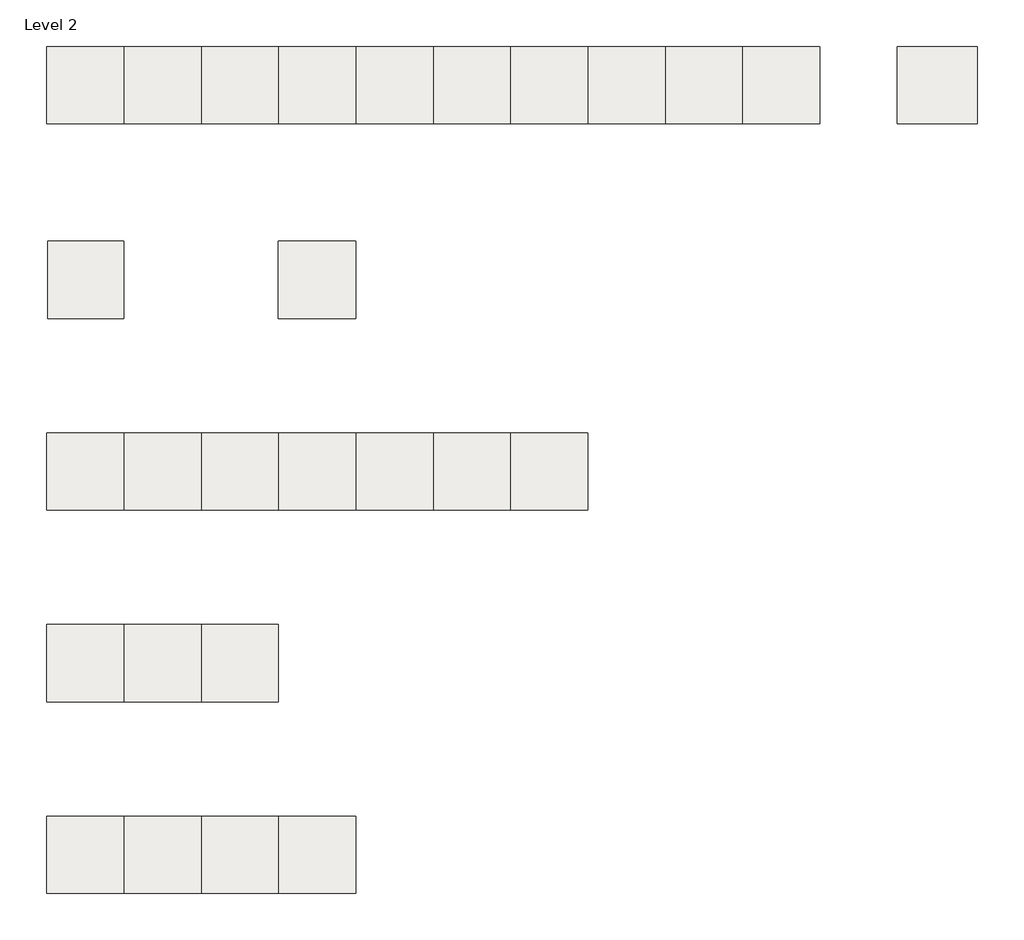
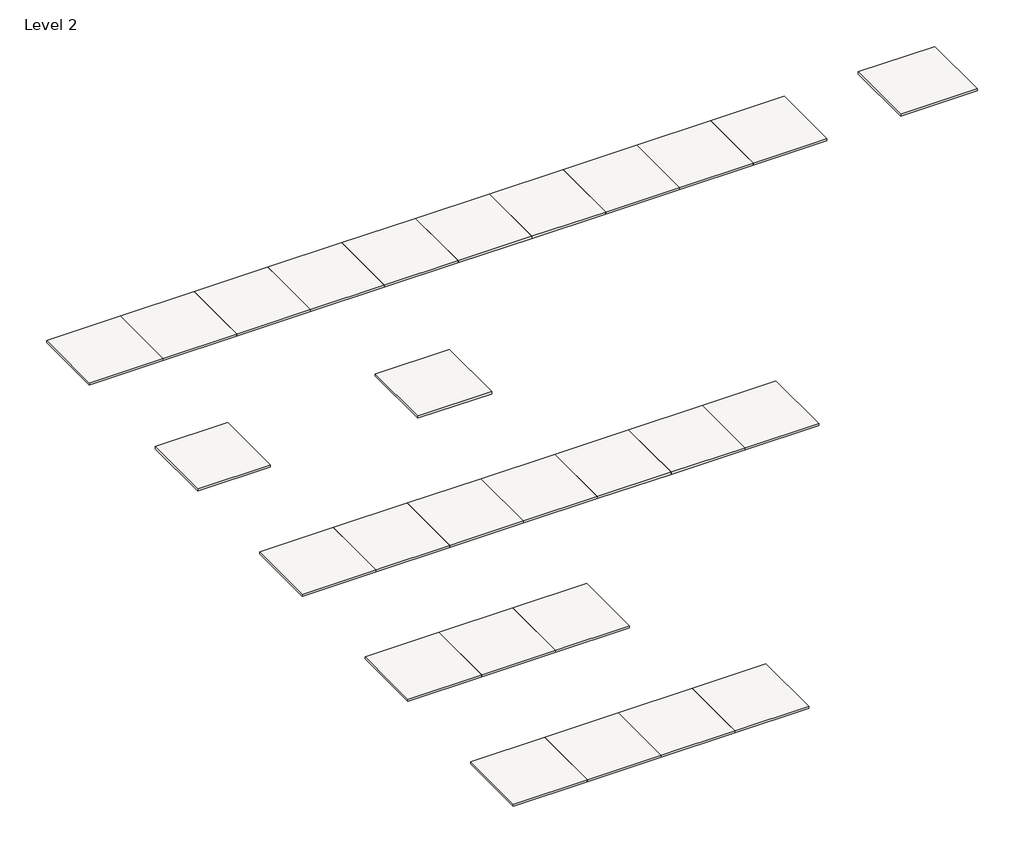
# One storey: 27 slabs.
"""IFC4 building model written with IfcOpenShell, lengths in millimetres."""

from ifc_helpers import new_model, si_unit, frame, origin, place, context, project, spatial, polyline, outline, extrude, element, save

model = new_model("IFC4")

# Units and contexts
model_context = context("Model", 3, world=origin())
ifc_project = project(units=[si_unit("LENGTHUNIT", "METRE", prefix="MILLI")], contexts=[model_context])

# Site, building, storey
site = spatial("IfcSite", under=ifc_project)
building = spatial("IfcBuilding", under=site)
storey = spatial("IfcBuildingStorey", under=building, Name="Level 2", Elevation=3000.0)

# Slabs
placement = place(None, origin())
element("IfcSlab", 1, ObjectType="Generic 150mm", at=placement, inside=storey, context=model_context, shape_type="SweptSolid", body=[
    extrude(outline(polyline([(5112.2416021, -3973.3850129), (5112.2416021, -8973.3850129), (195.8983303, -8973.3850129), (195.8983303, -3973.3850129), (5112.2416021, -3973.3850129)])), frame((0.0, 0.0, 2850.0), z_axis=(0.0, 0.0, 1.0), x_axis=(1.0, 0.0, 0.0)), (0.0, 0.0, 1.0), 150.0),
])
element("IfcSlab", 2, ObjectType="Generic 150mm", at=placement, inside=storey, context=model_context, shape_type="SweptSolid", body=[
    extrude(outline(polyline([(20112.2416021, -3973.3850129), (20112.2416021, -8973.3850129), (15112.2416021, -8973.3850129), (15112.2416021, -3973.3850129), (20112.2416021, -3973.3850129)])), frame((0.0, 0.0, 2850.0), z_axis=(0.0, 0.0, 1.0), x_axis=(1.0, 0.0, 0.0)), (0.0, 0.0, 1.0), 150.0),
])
element("IfcSlab", 3, ObjectType="Generic 150mm", at=placement, inside=storey, context=model_context, shape_type="SweptSolid", body=[
    extrude(outline(polyline([(5112.2416021, -16373.3850129), (5112.2416021, -21373.3850129), (112.2416021, -21373.3850129), (112.2416021, -16373.3850129), (5112.2416021, -16373.3850129)])), frame((0.0, 0.0, 2850.0), z_axis=(0.0, 0.0, 1.0), x_axis=(1.0, 0.0, 0.0)), (0.0, 0.0, 1.0), 150.0),
])
element("IfcSlab", 4, ObjectType="Generic 150mm", at=placement, inside=storey, context=model_context, shape_type="SweptSolid", body=[
    extrude(outline(polyline([(10112.2416021, -16373.3850129), (10112.2416021, -21373.3850129), (5112.2416021, -21373.3850129), (5112.2416021, -16373.3850129), (10112.2416021, -16373.3850129)])), frame((0.0, 0.0, 2850.0), z_axis=(0.0, 0.0, 1.0), x_axis=(1.0, 0.0, 0.0)), (0.0, 0.0, 1.0), 150.0),
])
element("IfcSlab", 5, ObjectType="Generic 150mm", at=placement, inside=storey, context=model_context, shape_type="SweptSolid", body=[
    extrude(outline(polyline([(15112.2416021, -16373.3850129), (15112.2416021, -21373.3850129), (10112.2416021, -21373.3850129), (10112.2416021, -16373.3850129), (15112.2416021, -16373.3850129)])), frame((0.0, 0.0, 2850.0), z_axis=(0.0, 0.0, 1.0), x_axis=(1.0, 0.0, 0.0)), (0.0, 0.0, 1.0), 150.0),
])
element("IfcSlab", 6, ObjectType="Generic 150mm", at=placement, inside=storey, context=model_context, shape_type="SweptSolid", body=[
    extrude(outline(polyline([(20112.2416021, -16373.3850129), (20112.2416021, -21373.3850129), (15112.2416021, -21373.3850129), (15112.2416021, -16373.3850129), (20112.2416021, -16373.3850129)])), frame((0.0, 0.0, 2850.0), z_axis=(0.0, 0.0, 1.0), x_axis=(1.0, 0.0, 0.0)), (0.0, 0.0, 1.0), 150.0),
])
element("IfcSlab", 7, ObjectType="Generic 150mm", at=placement, inside=storey, context=model_context, shape_type="SweptSolid", body=[
    extrude(outline(polyline([(25112.2416021, -16373.3850129), (25112.2416021, -21373.3850129), (20112.2416021, -21373.3850129), (20112.2416021, -16373.3850129), (25112.2416021, -16373.3850129)])), frame((0.0, 0.0, 2850.0), z_axis=(0.0, 0.0, 1.0), x_axis=(1.0, 0.0, 0.0)), (0.0, 0.0, 1.0), 150.0),
])
element("IfcSlab", 8, ObjectType="Generic 150mm", at=placement, inside=storey, context=model_context, shape_type="SweptSolid", body=[
    extrude(outline(polyline([(30112.2416021, -16373.3850129), (30112.2416021, -21373.3850129), (25112.2416021, -21373.3850129), (25112.2416021, -16373.3850129), (30112.2416021, -16373.3850129)])), frame((0.0, 0.0, 2850.0), z_axis=(0.0, 0.0, 1.0), x_axis=(1.0, 0.0, 0.0)), (0.0, 0.0, 1.0), 150.0),
])
element("IfcSlab", 9, ObjectType="Generic 150mm", at=placement, inside=storey, context=model_context, shape_type="SweptSolid", body=[
    extrude(outline(polyline([(35112.2416021, -16373.3850129), (35112.2416021, -21373.3850129), (30112.2416021, -21373.3850129), (30112.2416021, -16373.3850129), (35112.2416021, -16373.3850129)])), frame((0.0, 0.0, 2850.0), z_axis=(0.0, 0.0, 1.0), x_axis=(1.0, 0.0, 0.0)), (0.0, 0.0, 1.0), 150.0),
])
element("IfcSlab", 10, ObjectType="Generic 150mm", at=placement, inside=storey, context=model_context, shape_type="SweptSolid", body=[
    extrude(outline(polyline([(5112.2416021, 8626.6149871), (5112.2416021, 3626.6149871), (112.2416021, 3626.6149871), (112.2416021, 8626.6149871), (5112.2416021, 8626.6149871)])), frame((0.0, 0.0, 2850.0), z_axis=(0.0, 0.0, 1.0), x_axis=(1.0, 0.0, 0.0)), (0.0, 0.0, 1.0), 150.0),
])
element("IfcSlab", 11, ObjectType="Generic 150mm", at=placement, inside=storey, context=model_context, shape_type="SweptSolid", body=[
    extrude(outline(polyline([(10112.2416021, 8626.6149871), (10112.2416021, 3626.6149871), (5112.2416021, 3626.6149871), (5112.2416021, 8626.6149871), (10112.2416021, 8626.6149871)])), frame((0.0, 0.0, 2850.0), z_axis=(0.0, 0.0, 1.0), x_axis=(1.0, 0.0, 0.0)), (0.0, 0.0, 1.0), 150.0),
])
element("IfcSlab", 12, ObjectType="Generic 150mm", at=placement, inside=storey, context=model_context, shape_type="SweptSolid", body=[
    extrude(outline(polyline([(15112.2416021, 8626.6149871), (15112.2416021, 3626.6149871), (10112.2416021, 3626.6149871), (10112.2416021, 8626.6149871), (15112.2416021, 8626.6149871)])), frame((0.0, 0.0, 2850.0), z_axis=(0.0, 0.0, 1.0), x_axis=(1.0, 0.0, 0.0)), (0.0, 0.0, 1.0), 150.0),
])
element("IfcSlab", 13, ObjectType="Generic 150mm", at=placement, inside=storey, context=model_context, shape_type="SweptSolid", body=[
    extrude(outline(polyline([(20112.2416021, 8626.6149871), (20112.2416021, 3626.6149871), (15112.2416021, 3626.6149871), (15112.2416021, 8626.6149871), (20112.2416021, 8626.6149871)])), frame((0.0, 0.0, 2850.0), z_axis=(0.0, 0.0, 1.0), x_axis=(1.0, 0.0, 0.0)), (0.0, 0.0, 1.0), 150.0),
])
element("IfcSlab", 14, ObjectType="Generic 150mm", at=placement, inside=storey, context=model_context, shape_type="SweptSolid", body=[
    extrude(outline(polyline([(25112.2416021, 8626.6149871), (25112.2416021, 3626.6149871), (20112.2416021, 3626.6149871), (20112.2416021, 8626.6149871), (25112.2416021, 8626.6149871)])), frame((0.0, 0.0, 2850.0), z_axis=(0.0, 0.0, 1.0), x_axis=(1.0, 0.0, 0.0)), (0.0, 0.0, 1.0), 150.0),
])
element("IfcSlab", 15, ObjectType="Generic 150mm", at=placement, inside=storey, context=model_context, shape_type="SweptSolid", body=[
    extrude(outline(polyline([(30112.2416021, 8626.6149871), (30112.2416021, 3626.6149871), (25112.2416021, 3626.6149871), (25112.2416021, 8626.6149871), (30112.2416021, 8626.6149871)])), frame((0.0, 0.0, 2850.0), z_axis=(0.0, 0.0, 1.0), x_axis=(1.0, 0.0, 0.0)), (0.0, 0.0, 1.0), 150.0),
])
element("IfcSlab", 16, ObjectType="Generic 150mm", at=placement, inside=storey, context=model_context, shape_type="SweptSolid", body=[
    extrude(outline(polyline([(35112.2416021, 8626.6149871), (35112.2416021, 3626.6149871), (30112.2416021, 3626.6149871), (30112.2416021, 8626.6149871), (35112.2416021, 8626.6149871)])), frame((0.0, 0.0, 2850.0), z_axis=(0.0, 0.0, 1.0), x_axis=(1.0, 0.0, 0.0)), (0.0, 0.0, 1.0), 150.0),
])
element("IfcSlab", 17, ObjectType="Generic 150mm", at=placement, inside=storey, context=model_context, shape_type="SweptSolid", body=[
    extrude(outline(polyline([(40112.2416021, 8626.6149871), (40112.2416021, 3626.6149871), (35112.2416021, 3626.6149871), (35112.2416021, 8626.6149871), (40112.2416021, 8626.6149871)])), frame((0.0, 0.0, 2850.0), z_axis=(0.0, 0.0, 1.0), x_axis=(1.0, 0.0, 0.0)), (0.0, 0.0, 1.0), 150.0),
])
element("IfcSlab", 18, ObjectType="Generic 150mm", at=placement, inside=storey, context=model_context, shape_type="SweptSolid", body=[
    extrude(outline(polyline([(45112.2416021, 8626.6149871), (45112.2416021, 3626.6149871), (40112.2416021, 3626.6149871), (40112.2416021, 8626.6149871), (45112.2416021, 8626.6149871)])), frame((0.0, 0.0, 2850.0), z_axis=(0.0, 0.0, 1.0), x_axis=(1.0, 0.0, 0.0)), (0.0, 0.0, 1.0), 150.0),
])
element("IfcSlab", 19, ObjectType="Generic 150mm", at=placement, inside=storey, context=model_context, shape_type="SweptSolid", body=[
    extrude(outline(polyline([(50112.2416021, 8626.6149871), (50112.2416021, 3626.6149871), (45112.2416021, 3626.6149871), (45112.2416021, 8626.6149871), (50112.2416021, 8626.6149871)])), frame((0.0, 0.0, 2850.0), z_axis=(0.0, 0.0, 1.0), x_axis=(1.0, 0.0, 0.0)), (0.0, 0.0, 1.0), 150.0),
])
element("IfcSlab", 20, ObjectType="Generic 150mm", at=placement, inside=storey, context=model_context, shape_type="SweptSolid", body=[
    extrude(outline(polyline([(5112.2416021, -28773.3850129), (5112.2416021, -33773.3850129), (112.2416021, -33773.3850129), (112.2416021, -28773.3850129), (5112.2416021, -28773.3850129)])), frame((0.0, 0.0, 2850.0), z_axis=(0.0, 0.0, 1.0), x_axis=(1.0, 0.0, 0.0)), (0.0, 0.0, 1.0), 150.0),
])
element("IfcSlab", 21, ObjectType="Generic 150mm", at=placement, inside=storey, context=model_context, shape_type="SweptSolid", body=[
    extrude(outline(polyline([(10112.2416021, -28773.3850129), (10112.2416021, -33773.3850129), (5112.2416021, -33773.3850129), (5112.2416021, -28773.3850129), (10112.2416021, -28773.3850129)])), frame((0.0, 0.0, 2850.0), z_axis=(0.0, 0.0, 1.0), x_axis=(1.0, 0.0, 0.0)), (0.0, 0.0, 1.0), 150.0),
])
element("IfcSlab", 22, ObjectType="Generic 150mm", at=placement, inside=storey, context=model_context, shape_type="SweptSolid", body=[
    extrude(outline(polyline([(15112.2416021, -28773.3850129), (15112.2416021, -33773.3850129), (10112.2416021, -33773.3850129), (10112.2416021, -28773.3850129), (15112.2416021, -28773.3850129)])), frame((0.0, 0.0, 2850.0), z_axis=(0.0, 0.0, 1.0), x_axis=(1.0, 0.0, 0.0)), (0.0, 0.0, 1.0), 150.0),
])
element("IfcSlab", 23, ObjectType="Generic 150mm", at=placement, inside=storey, context=model_context, shape_type="SweptSolid", body=[
    extrude(outline(polyline([(60312.2416021, 8626.6149871), (60312.2416021, 3626.6149871), (55112.2416021, 3626.6149871), (55112.2416021, 8626.6149871), (60312.2416021, 8626.6149871)])), frame((0.0, 0.0, 2850.0), z_axis=(0.0, 0.0, 1.0), x_axis=(1.0, 0.0, 0.0)), (0.0, 0.0, 1.0), 150.0),
])
element("IfcSlab", 24, ObjectType="Generic 150mm", at=placement, inside=storey, context=model_context, shape_type="SweptSolid", body=[
    extrude(outline(polyline([(5112.2416021, -41173.3850129), (5112.2416021, -46173.3850129), (112.2416021, -46173.3850129), (112.2416021, -41173.3850129), (5112.2416021, -41173.3850129)])), frame((0.0, 0.0, 2850.0), z_axis=(0.0, 0.0, 1.0), x_axis=(1.0, 0.0, 0.0)), (0.0, 0.0, 1.0), 150.0),
])
element("IfcSlab", 25, ObjectType="Generic 150mm", at=placement, inside=storey, context=model_context, shape_type="SweptSolid", body=[
    extrude(outline(polyline([(10112.2416021, -41173.3850129), (10112.2416021, -46173.3850129), (5112.2416021, -46173.3850129), (5112.2416021, -41173.3850129), (10112.2416021, -41173.3850129)])), frame((0.0, 0.0, 2850.0), z_axis=(0.0, 0.0, 1.0), x_axis=(1.0, 0.0, 0.0)), (0.0, 0.0, 1.0), 150.0),
])
element("IfcSlab", 26, ObjectType="Generic 150mm", at=placement, inside=storey, context=model_context, shape_type="SweptSolid", body=[
    extrude(outline(polyline([(15112.2416021, -41173.3850129), (15112.2416021, -46173.3850129), (10112.2416021, -46173.3850129), (10112.2416021, -41173.3850129), (15112.2416021, -41173.3850129)])), frame((0.0, 0.0, 2850.0), z_axis=(0.0, 0.0, 1.0), x_axis=(1.0, 0.0, 0.0)), (0.0, 0.0, 1.0), 150.0),
])
element("IfcSlab", 27, ObjectType="Generic 150mm", at=placement, inside=storey, context=model_context, shape_type="SweptSolid", body=[
    extrude(outline(polyline([(20112.2416021, -41173.3850129), (20112.2416021, -46173.3850129), (15112.2416021, -46173.3850129), (15112.2416021, -41173.3850129), (20112.2416021, -41173.3850129)])), frame((0.0, 0.0, 2850.0), z_axis=(0.0, 0.0, 1.0), x_axis=(1.0, 0.0, 0.0)), (0.0, 0.0, 1.0), 150.0),
])

save(model, "model.ifc")
